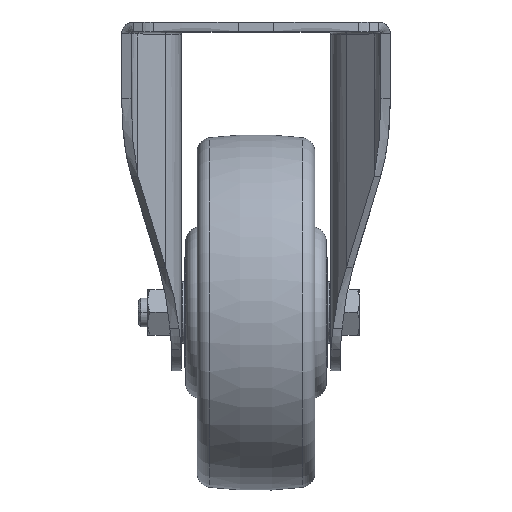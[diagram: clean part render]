
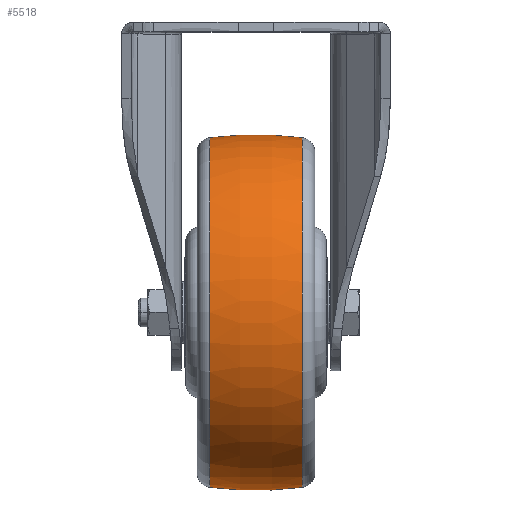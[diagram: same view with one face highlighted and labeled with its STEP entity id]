
A CAD part, top view. The second image highlights one B-rep face of the part: STEP entity #5518.
In plain terms, the highlighted toroidal (fillet/blend) face has major radius 75.25 mm and minor radius 150 mm.
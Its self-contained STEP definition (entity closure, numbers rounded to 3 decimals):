
#364 = FACE_OUTER_BOUND ( 'NONE', #20633, .T. ) ;
#2117 = CARTESIAN_POINT ( 'NONE',  ( -19.531, 73.473, 0. ) ) ;
#2551 = DIRECTION ( 'NONE',  ( -1., 0., 0. ) ) ;
#2835 = VERTEX_POINT ( 'NONE', #34373 ) ;
#4601 = CARTESIAN_POINT ( 'NONE',  ( 19.531, 73.473, 0. ) ) ;
#5518 = ADVANCED_FACE ( 'NONE', ( #364 ), #14255, .T. ) ;
#6737 = CARTESIAN_POINT ( 'NONE',  ( 0., 0., 0. ) ) ;
#7622 = CIRCLE ( 'NONE', #40117, 150. ) ;
#8840 = DIRECTION ( 'NONE',  ( 0., 0., -1. ) ) ;
#13165 = CARTESIAN_POINT ( 'NONE',  ( 0., -75.25, 0. ) ) ;
#14255 = TOROIDAL_SURFACE ( 'NONE', #53542, -75.25, 150. ) ;
#17111 = CIRCLE ( 'NONE', #47410, 73.473 ) ;
#17136 = EDGE_CURVE ( 'NONE', #19712, #17169, #17111, .T. ) ;
#17169 = VERTEX_POINT ( 'NONE', #58885 ) ;
#18214 = VERTEX_POINT ( 'NONE', #4601 ) ;
#19712 = VERTEX_POINT ( 'NONE', #2117 ) ;
#20633 = EDGE_LOOP ( 'NONE', ( #23626, #45223, #58059, #51176 ) ) ;
#20878 = EDGE_CURVE ( 'NONE', #18214, #19712, #22789, .T. ) ;
#21513 = AXIS2_PLACEMENT_3D ( 'NONE', #50784, #22786, #31388 ) ;
#22786 = DIRECTION ( 'NONE',  ( -1., 0., 0. ) ) ;
#22789 = CIRCLE ( 'NONE', #26779, 150. ) ;
#23626 = ORIENTED_EDGE ( 'NONE', *, *, #59825, .T. ) ;
#26779 = AXIS2_PLACEMENT_3D ( 'NONE', #13165, #27193, #49889 ) ;
#27193 = DIRECTION ( 'NONE',  ( 0., 0., 1. ) ) ;
#30698 = DIRECTION ( 'NONE',  ( 0., 1., 0. ) ) ;
#31388 = DIRECTION ( 'NONE',  ( 0., 1., 0. ) ) ;
#32690 = DIRECTION ( 'NONE',  ( 0.13, -0.991, 0. ) ) ;
#34373 = CARTESIAN_POINT ( 'NONE',  ( 19.531, -73.473, 0. ) ) ;
#34790 = CARTESIAN_POINT ( 'NONE',  ( -19.531, 0., 0. ) ) ;
#36979 = CARTESIAN_POINT ( 'NONE',  ( 0., 75.25, 0. ) ) ;
#40117 = AXIS2_PLACEMENT_3D ( 'NONE', #36979, #8840, #32690 ) ;
#45223 = ORIENTED_EDGE ( 'NONE', *, *, #46472, .T. ) ;
#46472 = EDGE_CURVE ( 'NONE', #2835, #17169, #7622, .T. ) ;
#47410 = AXIS2_PLACEMENT_3D ( 'NONE', #34790, #2551, #30698 ) ;
#47715 = CIRCLE ( 'NONE', #21513, 73.473 ) ;
#48957 = DIRECTION ( 'NONE',  ( 1., 0., 0. ) ) ;
#49889 = DIRECTION ( 'NONE',  ( 0.13, 0.991, 0. ) ) ;
#50784 = CARTESIAN_POINT ( 'NONE',  ( 19.531, 0., 0. ) ) ;
#51176 = ORIENTED_EDGE ( 'NONE', *, *, #20878, .F. ) ;
#53542 = AXIS2_PLACEMENT_3D ( 'NONE', #6737, #48957, #58555 ) ;
#58059 = ORIENTED_EDGE ( 'NONE', *, *, #17136, .F. ) ;
#58555 = DIRECTION ( 'NONE',  ( 0., 1., 0. ) ) ;
#58885 = CARTESIAN_POINT ( 'NONE',  ( -19.531, -73.473, 0. ) ) ;
#59825 = EDGE_CURVE ( 'NONE', #18214, #2835, #47715, .T. ) ;
